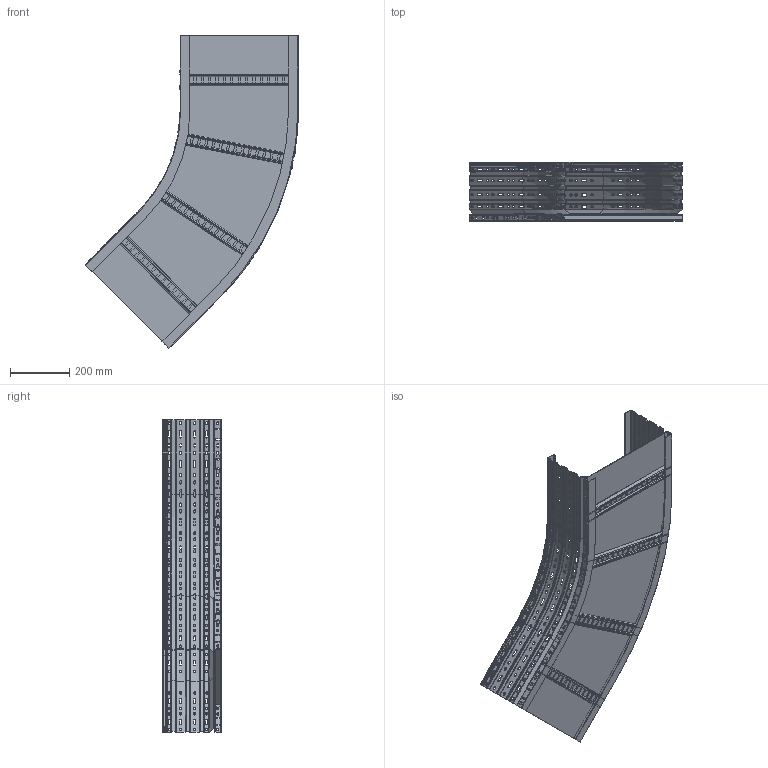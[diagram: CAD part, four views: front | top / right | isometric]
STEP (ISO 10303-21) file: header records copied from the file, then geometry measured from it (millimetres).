
FILE_DESCRIPTION (( 'STEP AP203' ), '1' );
FILE_NAME ('鸙 浯 45 ﾍ200.STEP', '2015-01-23T05:57:04', ( '' ), ( '' ), 'SwSTEP 2.0', 'SolidWorks 2014', '' );
FILE_SCHEMA (( 'CONFIG_CONTROL_DESIGN' ));
Length unit declared in the file: millimetre
Products named in the file (5): Ëîíæåðîí  45  íàðóæíèé ñìåùåíàÿ ïåðôîðàöèÿ 200_400; Traversino 39x19x1.5_1_400:(1,5); äíèùå 45_cover90 1,2-400; óãîë íà 45 Í200; 呧翲歑鍙 45 碴麔謥臇鴇 200
Assembly tree (7 placements, depth 2):
  óãîë íà 45 Í200
    呧翲歑鍙 45 碴麔謥臇鴇 200
    Ëîíæåðîí  45  íàðóæíèé ñìåùåíàÿ ïåðôîðàöèÿ 200_400
    Traversino 39x19x1.5_1_400:(1,5)  x4
    äíèùå 45_cover90 1,2-400
Bounding box: 722.56 x 197.9 x 1058.23 mm (x, y, z)
Volume: 1580764 mm3; surface area: 2421377.9 mm2
Topology: 7 solids, 7 shells, 2878 faces, 8124 edges, 5244 vertices
Faces by surface type: cylinder 1412, plane 1370, torus 88, cone 8
Entity records: 85961 total; most frequent: CARTESIAN_POINT 27858, ORIENTED_EDGE 12336, DIRECTION 11692, EDGE_CURVE 6168, AXIS2_PLACEMENT_3D 4202, VERTEX_POINT 4020, VECTOR 3288, LINE 3288
